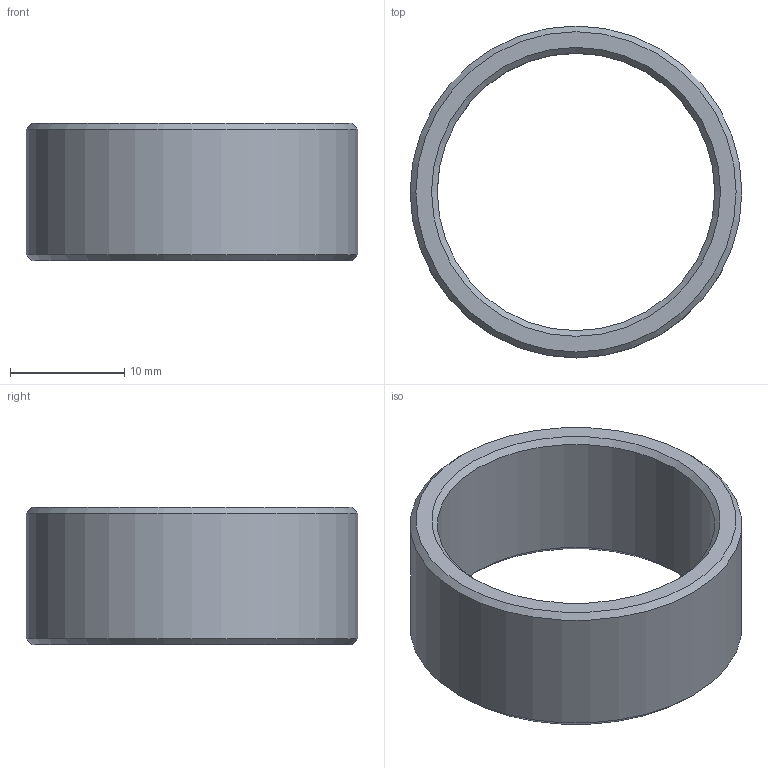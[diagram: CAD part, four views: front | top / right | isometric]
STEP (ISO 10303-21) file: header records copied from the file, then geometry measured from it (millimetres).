
FILE_DESCRIPTION(/* description */ (''),/* implementation_level */ '2;1');
FILE_NAME(/* name */ 'Y:\IvDoronin\- Фотоприемники -\- Модели -\4. Аксесуары для фотоприемников\TNut M25x1\Тубус 12 мм.stp',/* time_stamp */ '2019-08-27T17:11:04+03:00',/* author */ ('svlad'),/* organization */ (''),/* preprocessor_version */ 'ST-DEVELOPER v17',/* originating_system */ 'Autodesk Inventor 2019',/* authorisation */ '');
FILE_SCHEMA (('AUTOMOTIVE_DESIGN { 1 0 10303 214 3 1 1 }'));
Length unit declared in the file: millimetre
Products named in the file (1): Тубус 10 мм
Bounding box: 29 x 29 x 12 mm (x, y, z)
Volume: 2342.1 mm3; surface area: 2306.8 mm2
Topology: 1 solids, 1 shells, 8 faces, 14 edges, 8 vertices
Faces by surface type: cone 4, cylinder 2, plane 2
Full cylindrical faces by diameter (mm): 24.25 x1, 29 x1
Entity records: 231 total; most frequent: DIRECTION 40, CARTESIAN_POINT 31, ORIENTED_EDGE 28, AXIS2_PLACEMENT_3D 17, EDGE_CURVE 14, EDGE_LOOP 10, FACE_OUTER_BOUND 8, CIRCLE 8
